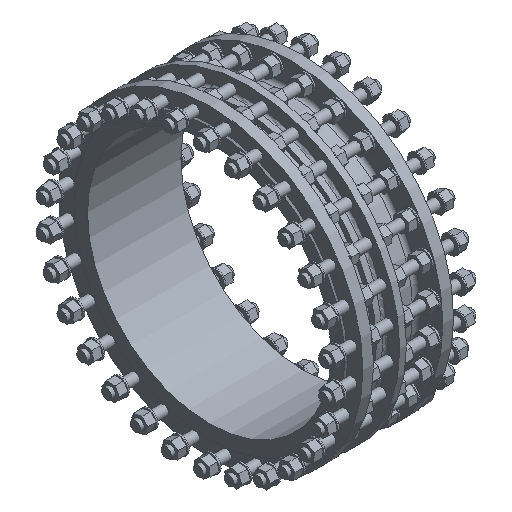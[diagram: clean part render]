
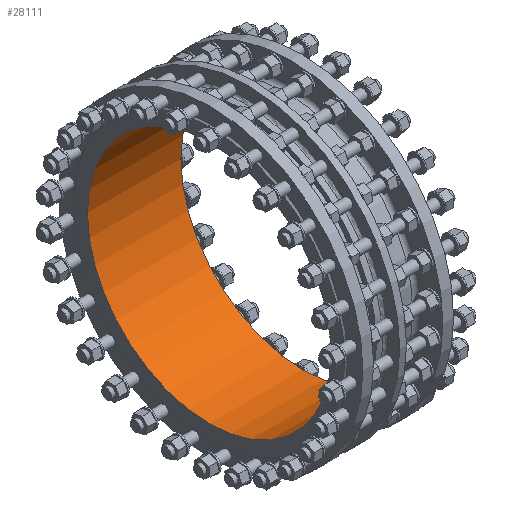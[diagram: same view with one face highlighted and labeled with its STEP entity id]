
A CAD part, isometric view. The second image highlights one B-rep face of the part: STEP entity #28111.
In plain terms, the highlighted cylindrical face has radius 450 mm (diameter 900 mm), a full revolution.
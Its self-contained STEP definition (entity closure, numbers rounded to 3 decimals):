
#2583 = AXIS2_PLACEMENT_3D ( 'NONE', #40050, #21667, #18381 ) ;
#3840 = ORIENTED_EDGE ( 'NONE', *, *, #43967, .F. ) ;
#4064 = AXIS2_PLACEMENT_3D ( 'NONE', #43790, #15580, #5315 ) ;
#4707 = EDGE_LOOP ( 'NONE', ( #33166 ) ) ;
#5315 = DIRECTION ( 'NONE',  ( 0., 0., 1. ) ) ;
#5571 = CIRCLE ( 'NONE', #2583, 450. ) ;
#8579 = CYLINDRICAL_SURFACE ( 'NONE', #4064, 450. ) ;
#9254 = VERTEX_POINT ( 'NONE', #34459 ) ;
#10772 = DIRECTION ( 'NONE',  ( 1., 0., 0. ) ) ;
#15580 = DIRECTION ( 'NONE',  ( -1., 0., 0. ) ) ;
#16003 = EDGE_CURVE ( 'NONE', #9254, #9254, #5571, .T. ) ;
#16045 = FACE_OUTER_BOUND ( 'NONE', #42621, .T. ) ;
#17301 = DIRECTION ( 'NONE',  ( 0., 0., -1. ) ) ;
#18381 = DIRECTION ( 'NONE',  ( 0., 0., 1. ) ) ;
#21667 = DIRECTION ( 'NONE',  ( -1., 0., 0. ) ) ;
#22524 = VERTEX_POINT ( 'NONE', #33238 ) ;
#26310 = FACE_OUTER_BOUND ( 'NONE', #4707, .T. ) ;
#28111 = ADVANCED_FACE ( 'NONE', ( #26310, #16045 ), #8579, .F. ) ;
#33166 = ORIENTED_EDGE ( 'NONE', *, *, #16003, .F. ) ;
#33238 = CARTESIAN_POINT ( 'NONE',  ( -75., 0., -450. ) ) ;
#34459 = CARTESIAN_POINT ( 'NONE',  ( 270., 0., 450. ) ) ;
#35047 = CARTESIAN_POINT ( 'NONE',  ( -75., 0., 0. ) ) ;
#37147 = AXIS2_PLACEMENT_3D ( 'NONE', #35047, #10772, #17301 ) ;
#40050 = CARTESIAN_POINT ( 'NONE',  ( 270., 0., 0. ) ) ;
#42621 = EDGE_LOOP ( 'NONE', ( #3840 ) ) ;
#43790 = CARTESIAN_POINT ( 'NONE',  ( 0., 0., 0. ) ) ;
#43967 = EDGE_CURVE ( 'NONE', #22524, #22524, #44561, .T. ) ;
#44561 = CIRCLE ( 'NONE', #37147, 450. ) ;
